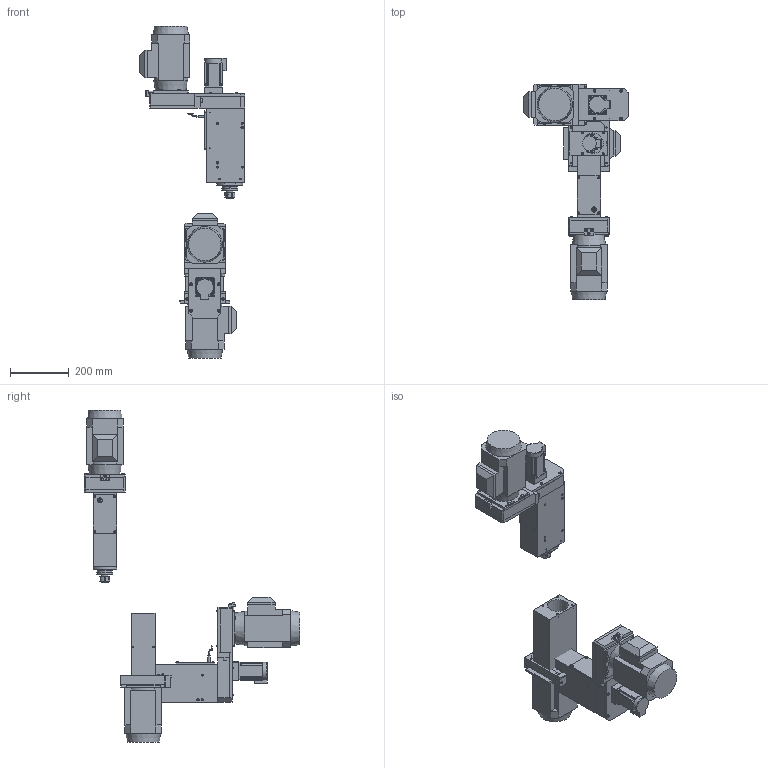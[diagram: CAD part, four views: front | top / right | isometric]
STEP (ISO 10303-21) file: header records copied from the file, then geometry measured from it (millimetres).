
FILE_DESCRIPTION( ( 'STEP AP203' ), '1' );
FILE_NAME( 'C:/Documents and Settings/Saverio/Desktop/disegni ironcad/unità serie 1/FM 110 CN/FM 110 CN.stp', '2013-11-27T08:48:38', ( ' ' ), ( ' ' ), 'XStep 1.0', ' ', ' ' );
FILE_SCHEMA( ( 'CONFIG_CONTROL_DESIGN' ) );
Length unit declared in the file: metre
Products named in the file (46): Assem1; Assem2; Assem3; 1; 2; 3; 4; 5; 6; 7; 8; 9; 10; 11; 12; 13; 14; 15; 16; 17; 18; 19; 20; 21; 22; 23; 24; 25; 26; 27; 28; 29; 30; 31; 32; 33; 34; 35; 36; 37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
Bounding box: 356 x 729.16 x 1125.46 mm (x, y, z)
Volume: 23423327.4 mm3; surface area: 2229551 mm2
Topology: 129 solids, 129 shells, 2367 faces, 5454 edges, 3492 vertices
Faces by surface type: plane 1365, cone 468, cylinder 450, sphere 36, torus 24, bspline 24
Full cylindrical faces by diameter (mm): 3.3 x18, 4.2 x39, 4.3 x12, 5 x60, 5.5 x69, 6.75 x42, 7 x3, 8 x9, 8.385 x3, 8.5 x18, 12.85 x6, 14 x3, 16 x6, 22.5 x3, 23.5 x3, 25 x3, 26 x6, 29 x3, 35 x3, 37 x3, 50 x18, 54 x3, 60 x12, 70 x6, 71 x3
Entity records: 23792 total; most frequent: CARTESIAN_POINT 4865, DIRECTION 3574, ORIENTED_EDGE 2986, EDGE_CURVE 1493, AXIS2_PLACEMENT_3D 1379, EDGE_LOOP 1191, VERTEX_POINT 1134, FACE_OUTER_BOUND 926
